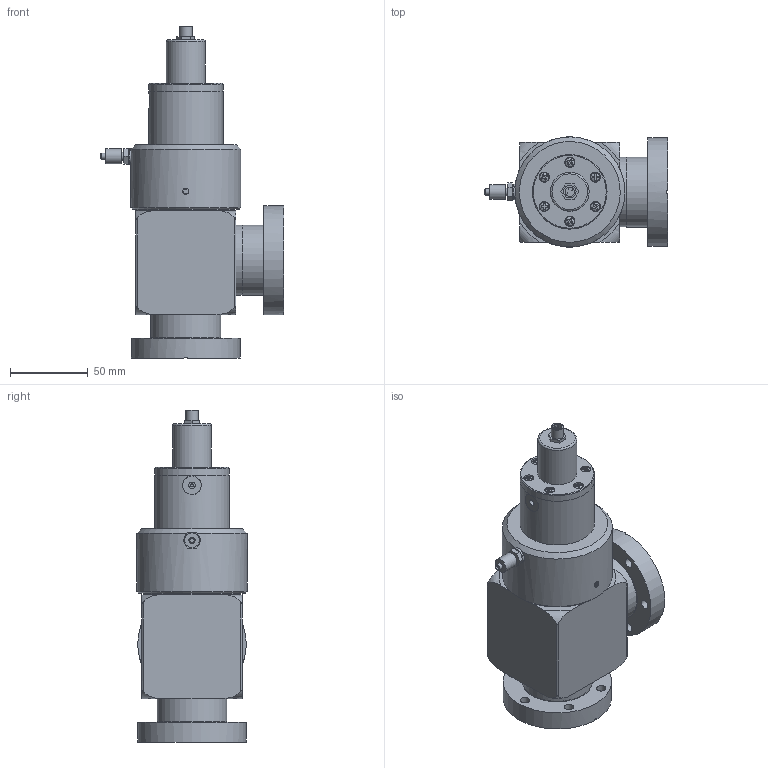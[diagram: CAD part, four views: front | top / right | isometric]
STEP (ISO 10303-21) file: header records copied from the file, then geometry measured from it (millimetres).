
FILE_DESCRIPTION( ( 'Unknown' ), '1' );
FILE_NAME( 'X:/Daten ( aktueller Bestand )/Projekte und Zeichnungen/Solid Edge/STP-Dateien/UHV Eckventil CF/706222.stp', 'Unknown', ( 'Unknown' ), ( 'Unknown' ), 'PSStep 14.0', 'Unknown', ' ' );
FILE_SCHEMA( ( 'AUTOMOTIVE_DESIGN { 1 0 10303 214 1 1 1 1 }' ) );
Length unit declared in the file: millimetre
Products named in the file (13): 7512R4G; 7512R4-2; 7512R3G-1; Assem1; 3006-1; 3102-2; 3102-5; Schraube_3x8; M4x4; 3102-6; Anschluss Festo; Eckvent. 40 Koerper CF; Eckvent.40 Stutzen CF
Assembly tree (19 placements, depth 3):
  Assem1
    3006-1
    3102-2
    3102-5
    Schraube_3x8  x6
    M4x4  x2
    3102-6
    Anschluss Festo
    Eckvent. 40 Koerper CF
    Eckvent.40 Stutzen CF
    7512R4G  x2
      7512R4-2
      7512R3G-1
Bounding box: 118 x 72 x 214 mm (x, y, z)
Volume: 565447.3 mm3; surface area: 124003.2 mm2
Topology: 19 solids, 19 shells, 339 faces, 768 edges, 512 vertices
Faces by surface type: plane 188, cylinder 105, cone 30, torus 10, sphere 6
Full cylindrical faces by diameter (mm): 0.5 x3, 2 x1, 2.459 x6, 2.8 x1, 3 x6, 3.242 x2, 3.3 x6, 4 x3, 4.134 x2, 5 x2, 5.793 x6, 6 x14, 6.5 x6, 7.459 x1, 8 x1, 9.518 x1, 10 x1, 10.5 x1, 12 x1, 16.913 x1, 19 x1, 20 x1, 25 x1, 26 x1, 33.739 x1, 37 x2, 37.97 x1, 40 x3, 40.2 x2, 42 x2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
Entity records: 7804 total; most frequent: CARTESIAN_POINT 1713, DIRECTION 920, ORIENTED_EDGE 630, AXIS2_PLACEMENT_3D 411, EDGE_LOOP 389, EDGE_CURVE 315, FACE_OUTER_BOUND 287, VERTEX_POINT 270
